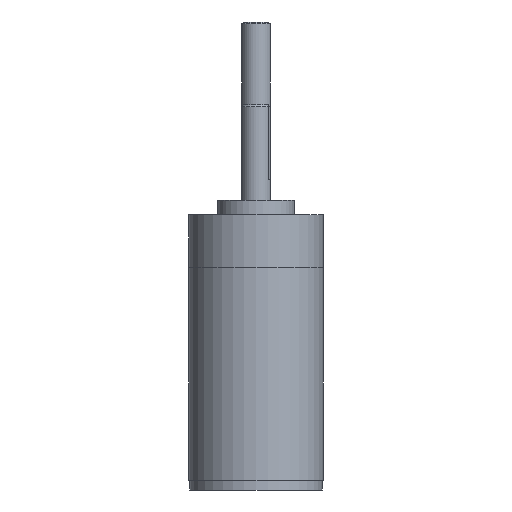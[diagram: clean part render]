
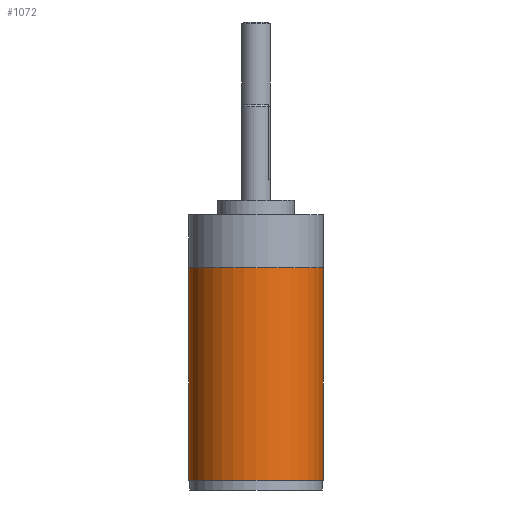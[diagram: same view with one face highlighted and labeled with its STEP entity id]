
A CAD part, left-side view. The second image highlights one B-rep face of the part: STEP entity #1072.
In plain terms, the highlighted cylindrical face has radius 7 mm (diameter 14 mm), a full revolution.
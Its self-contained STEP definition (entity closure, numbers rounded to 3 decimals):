
#1005=CYLINDRICAL_SURFACE('',#3263,7.);
#1072=ADVANCED_FACE('',(#1372,#1373),#1005,.T.);
#1372=FACE_BOUND('',#1573,.T.);
#1373=FACE_BOUND('',#1574,.T.);
#1573=EDGE_LOOP('',(#1880));
#1574=EDGE_LOOP('',(#1881));
#1880=ORIENTED_EDGE('',*,*,#2781,.F.);
#1881=ORIENTED_EDGE('',*,*,#2790,.T.);
#2526=VERTEX_POINT('',#4153);
#2535=VERTEX_POINT('',#4176);
#2781=EDGE_CURVE('',#2526,#2526,#3113,.T.);
#2790=EDGE_CURVE('',#2535,#2535,#3122,.T.);
#3113=CIRCLE('',#3247,7.);
#3122=CIRCLE('',#3261,7.);
#3247=AXIS2_PLACEMENT_3D('',#4152,#3544,#3545);
#3261=AXIS2_PLACEMENT_3D('',#4175,#3572,#3573);
#3263=AXIS2_PLACEMENT_3D('',#4178,#3576,#3577);
#3544=DIRECTION('',(0.,0.,-1.));
#3545=DIRECTION('',(1.,0.,0.));
#3572=DIRECTION('',(0.,0.,-1.));
#3573=DIRECTION('',(1.,0.,0.));
#3576=DIRECTION('',(0.,0.,1.));
#3577=DIRECTION('',(1.,0.,0.));
#4152=CARTESIAN_POINT('',(0.,0.,1.));
#4153=CARTESIAN_POINT('',(7.,0.,1.));
#4175=CARTESIAN_POINT('',(0.,0.,23.099));
#4176=CARTESIAN_POINT('',(7.,0.,23.099));
#4178=CARTESIAN_POINT('',(0.,0.,23.1));
